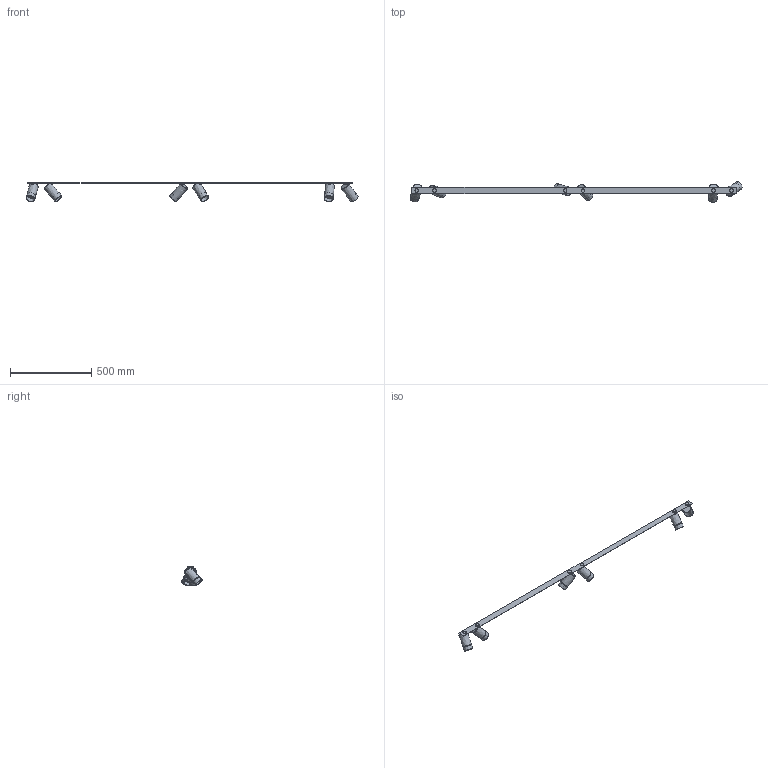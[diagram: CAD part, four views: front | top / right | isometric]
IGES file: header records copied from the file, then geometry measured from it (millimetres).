
Start section: SolidWorks IGES file using NURBS representation for surfaces
Global section: file name: Z:\Modele 3D_WWW\_KOLEKCJE_WWW\MONO\MONO-SURFACE\7748\MONO-SURFACE-VI-BRASS-7748.IGS; native system: SolidWorks 2021; preprocessor: SolidWorks 2021; author: gabriela.tworek; date: 220125.102334; units: millimetre
Bounding box: 2047.83 x 125.6 x 119.94 mm (x, y, z)
Surface area: 441370.6 mm2 (no closed solid volume)
Topology: 0 solids, 0 shells, 252 faces, 1596 edges, 1566 vertices
Faces by surface type: bspline 252
